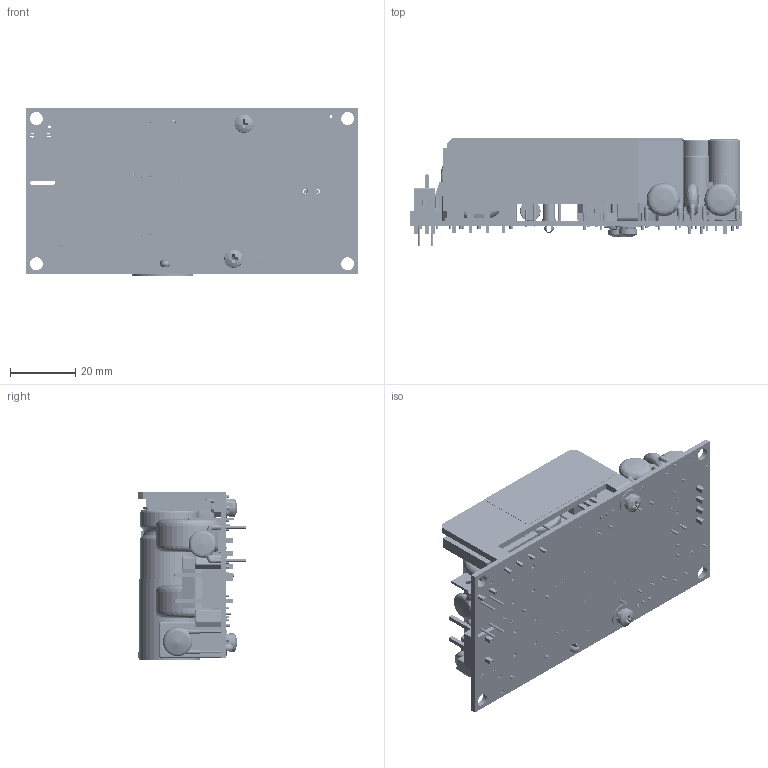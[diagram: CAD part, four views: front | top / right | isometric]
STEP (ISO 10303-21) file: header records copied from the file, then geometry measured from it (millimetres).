
FILE_DESCRIPTION (( 'STEP AP214' ), '1' );
FILE_NAME ('ECS130-A.STEP', '2014-07-08T23:37:34', ( '' ), ( '' ), 'SwSTEP 2.0', 'SolidWorks 2012', '' );
FILE_SCHEMA (( 'AUTOMOTIVE_DESIGN' ));
Length unit declared in the file: millimetre
Products named in the file (42): sleeveforbead; 10013316-bead; LABEL; Conn_MLX_KK156_Hdr_04P; Washer_Square_Cone_M3_8mm od_01; SCREW_PPH_M3_01; Screw_Flat Head Phillips (Metric)_(1314)_M3 x 8; TO220_3P_01; 1001420802; Capacitor Elec_10mm D_25mm; Capacitor Elec_8mm D_20mm; Inductor Toroid_8.0mm OD W LEAD; POT_TOP-ADJ_01; Nut hex M3 Keps; metric flat washers_M3 (.5 MM THICK); Screw_Flat Head Phillips (Metric)_(1315)_M3 x 10; 10014207A; NOMEX 10014420; outertape1; holdtape; outertape; WINDING; core; BOBBIN 1; TO220_3P_01 PLASTIC; Bridge Rectifier_GBU6K_Lead trimed; Faston .25 X .032; Capacitor Film_13x06mm_10 LS_12mm H; CON MLX  .156 3P; Inductor Toroid_20.0mm OD; Capacitor Film_18x11mm_15 _24LS_19mm H; Fuse Mini Box; Capacitor Disc_0.400 D X .40 LS; Capacitor Disc_0.300 D X .40 LS; CAP-ELE_6_3X15MM_HOZ; CAP-ELE_5X11MM_HOZ; INS CVR 10014370; CAP-ELE_18X46MM_HOZ-1 long lead; Spacer push .250H (PST-4-01); Therm_.350 D X .250 LS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
Assembly tree (73 placements, depth 2):
  ECS130-A
    10013791A(PCB ECS130)
    Therm_.350 D X .250 LS
    Spacer push .250H (PST-4-01)
    CAP-ELE_18X46MM_HOZ-1 long lead
    INS CVR 10014370
    CAP-ELE_5X11MM_HOZ
    CAP-ELE_6_3X15MM_HOZ
    Capacitor Disc_0.300 D X .40 LS  x2
    Capacitor Disc_0.400 D X .40 LS  x3
    Fuse Mini Box  x2
    Capacitor Film_18x11mm_15 _24LS_19mm H
    Inductor Toroid_20.0mm OD  x2
    CON MLX  .156 3P
    Capacitor Film_13x06mm_10 LS_12mm H
    Faston .25 X .032
    Bridge Rectifier_GBU6K_Lead trimed
    TO220_3P_01 PLASTIC
    BOBBIN 1
    core  x2
    WINDING  x22
    outertape
    holdtape
    outertape1
    NOMEX 10014420
    10014207A
    Screw_Flat Head Phillips (Metric)_(1315)_M3 x 10
    metric flat washers_M3 (.5 MM THICK)
    Nut hex M3 Keps  x2
    POT_TOP-ADJ_01
    Inductor Toroid_8.0mm OD W LEAD
    Capacitor Elec_8mm D_20mm
    Capacitor Elec_10mm D_25mm  x2
    1001420802
    TO220_3P_01
    Screw_Flat Head Phillips (Metric)_(1314)_M3 x 8
    SCREW_PPH_M3_01  x2
    Washer_Square_Cone_M3_8mm od_01  x2
    Conn_MLX_KK156_Hdr_04P
    LABEL
    10013316-bead  x2
    sleeveforbead
Bounding box: 101.6 x 33.02 x 51.58 mm (x, y, z)
Volume: 63960.4 mm3; surface area: 85806.4 mm2
Topology: 145 solids, 149 shells, 2629 faces, 6501 edges, 4036 vertices
Faces by surface type: plane 917, cylinder 883, bspline 699, cone 130
Entity records: 66257 total; most frequent: CARTESIAN_POINT 20498, ORIENTED_EDGE 8764, DIRECTION 8350, EDGE_CURVE 4385, AXIS2_PLACEMENT_3D 2992, VERTEX_POINT 2843, LINE 2366, VECTOR 2366
